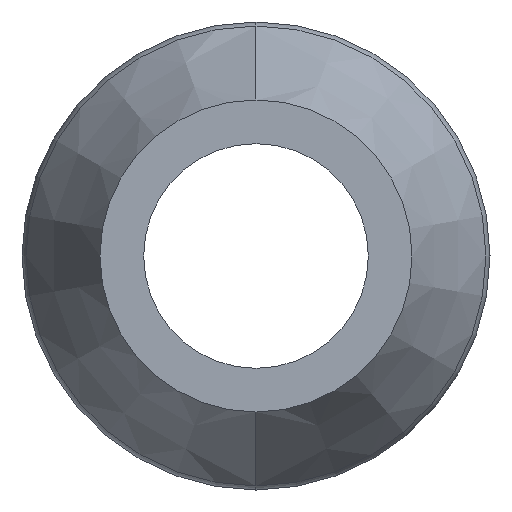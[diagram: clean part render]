
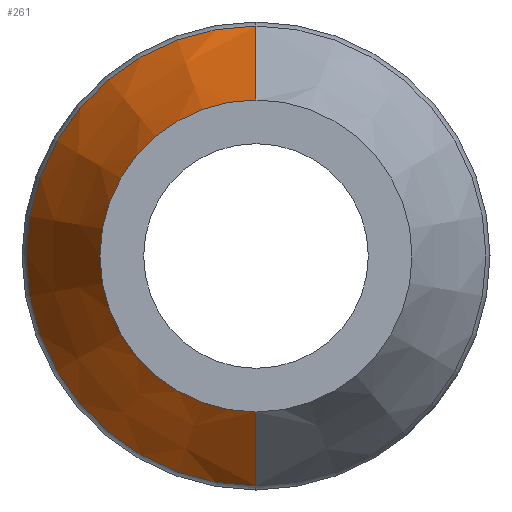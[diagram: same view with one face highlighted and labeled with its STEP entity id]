
A CAD part, left-side view. The second image highlights one B-rep face of the part: STEP entity #261.
In plain terms, the highlighted conical face has half-angle 26.565 degrees and reference radius 3.175 mm.
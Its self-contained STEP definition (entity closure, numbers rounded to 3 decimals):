
#4 = VERTEX_POINT ( 'NONE', #220 ) ;
#5 = CARTESIAN_POINT ( 'NONE',  ( 22.059, 0., 0. ) ) ;
#12 = DIRECTION ( 'NONE',  ( 0., 0., 1. ) ) ;
#33 = DIRECTION ( 'NONE',  ( 0., 0., -1. ) ) ;
#54 = AXIS2_PLACEMENT_3D ( 'NONE', #5, #100, #12 ) ;
#75 = LINE ( 'NONE', #317, #156 ) ;
#81 = CONICAL_SURFACE ( 'NONE', #189, 3.175, 0.464 ) ;
#100 = DIRECTION ( 'NONE',  ( -1., 0., 0. ) ) ;
#101 = CARTESIAN_POINT ( 'NONE',  ( 19.05, 0., 0. ) ) ;
#105 = DIRECTION ( 'NONE',  ( 1., 0., 0. ) ) ;
#106 = DIRECTION ( 'NONE',  ( 0., 0., -1. ) ) ;
#108 = CARTESIAN_POINT ( 'NONE',  ( 19.05, 0., -3.175 ) ) ;
#120 = DIRECTION ( 'NONE',  ( 0.894, 0., 0.447 ) ) ;
#137 = AXIS2_PLACEMENT_3D ( 'NONE', #101, #105, #106 ) ;
#138 = VERTEX_POINT ( 'NONE', #307 ) ;
#143 = EDGE_LOOP ( 'NONE', ( #448, #501, #237, #431 ) ) ;
#146 = LINE ( 'NONE', #446, #210 ) ;
#156 = VECTOR ( 'NONE', #289, 1000. ) ;
#173 = FACE_OUTER_BOUND ( 'NONE', #143, .T. ) ;
#177 = EDGE_CURVE ( 'NONE', #188, #4, #324, .T. ) ;
#181 = CIRCLE ( 'NONE', #54, 4.679 ) ;
#188 = VERTEX_POINT ( 'NONE', #108 ) ;
#189 = AXIS2_PLACEMENT_3D ( 'NONE', #355, #192, #33 ) ;
#192 = DIRECTION ( 'NONE',  ( 1., 0., 0. ) ) ;
#210 = VECTOR ( 'NONE', #120, 1000. ) ;
#220 = CARTESIAN_POINT ( 'NONE',  ( 19.05, 0., 3.175 ) ) ;
#237 = ORIENTED_EDGE ( 'NONE', *, *, #344, .T. ) ;
#261 = ADVANCED_FACE ( 'NONE', ( #173 ), #81, .T. ) ;
#283 = CARTESIAN_POINT ( 'NONE',  ( 22.059, 0., 4.679 ) ) ;
#289 = DIRECTION ( 'NONE',  ( 0.894, 0., -0.447 ) ) ;
#307 = CARTESIAN_POINT ( 'NONE',  ( 22.059, 0., -4.679 ) ) ;
#317 = CARTESIAN_POINT ( 'NONE',  ( 19.05, 0., -3.175 ) ) ;
#324 = CIRCLE ( 'NONE', #137, 3.175 ) ;
#344 = EDGE_CURVE ( 'NONE', #420, #138, #181, .T. ) ;
#355 = CARTESIAN_POINT ( 'NONE',  ( 19.05, 0., 0. ) ) ;
#407 = EDGE_CURVE ( 'NONE', #4, #420, #146, .T. ) ;
#420 = VERTEX_POINT ( 'NONE', #283 ) ;
#431 = ORIENTED_EDGE ( 'NONE', *, *, #492, .F. ) ;
#446 = CARTESIAN_POINT ( 'NONE',  ( 19.05, 0., 3.175 ) ) ;
#448 = ORIENTED_EDGE ( 'NONE', *, *, #177, .T. ) ;
#492 = EDGE_CURVE ( 'NONE', #188, #138, #75, .T. ) ;
#501 = ORIENTED_EDGE ( 'NONE', *, *, #407, .T. ) ;
